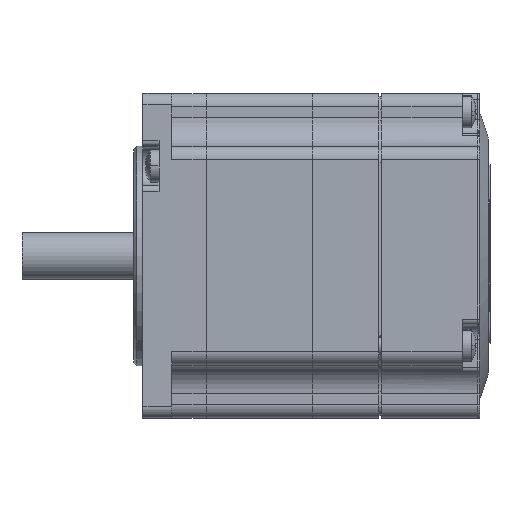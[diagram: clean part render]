
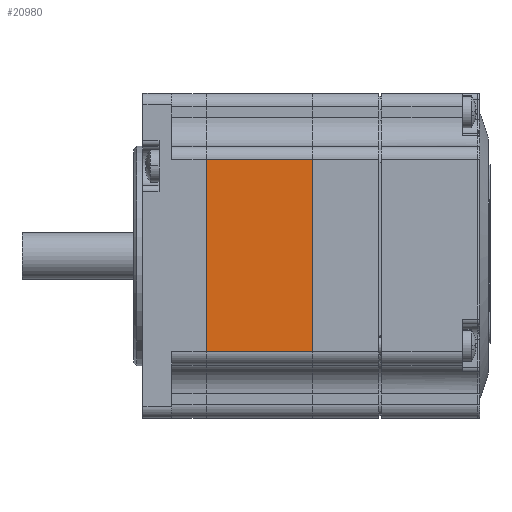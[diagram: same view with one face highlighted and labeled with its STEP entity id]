
A CAD part, top view. The second image highlights one B-rep face of the part: STEP entity #20980.
In plain terms, the highlighted planar face has unit normal (0, 0, 1).
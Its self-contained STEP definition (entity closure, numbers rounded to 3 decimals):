
#1733 = ORIENTED_EDGE ( 'NONE', *, *, #76258, .F. ) ;
#1758 = DIRECTION ( 'NONE',  ( 0., -1., 0. ) ) ;
#6727 = VECTOR ( 'NONE', #49138, 1000. ) ;
#6785 = VERTEX_POINT ( 'NONE', #69353 ) ;
#7866 = PLANE ( 'NONE',  #68882 ) ;
#13286 = LINE ( 'NONE', #31447, #6727 ) ;
#17058 = CARTESIAN_POINT ( 'NONE',  ( 0., -11.5, 56.4 ) ) ;
#17263 = VECTOR ( 'NONE', #1758, 1000. ) ;
#19697 = EDGE_LOOP ( 'NONE', ( #1733, #52389, #71979, #54591 ) ) ;
#20980 = ADVANCED_FACE ( 'NONE', ( #106685 ), #7866, .F. ) ;
#21999 = VECTOR ( 'NONE', #70257, 1000. ) ;
#22355 = LINE ( 'NONE', #62553, #109464 ) ;
#27876 = EDGE_CURVE ( 'NONE', #105415, #35238, #22355, .T. ) ;
#31447 = CARTESIAN_POINT ( 'NONE',  ( -56.5, -11.5, 56.4 ) ) ;
#32839 = DIRECTION ( 'NONE',  ( 1., 0., 0. ) ) ;
#35238 = VERTEX_POINT ( 'NONE', #91560 ) ;
#46153 = LINE ( 'NONE', #77623, #17263 ) ;
#49138 = DIRECTION ( 'NONE',  ( -1., 0., 0. ) ) ;
#52389 = ORIENTED_EDGE ( 'NONE', *, *, #60389, .F. ) ;
#54591 = ORIENTED_EDGE ( 'NONE', *, *, #27876, .T. ) ;
#60389 = EDGE_CURVE ( 'NONE', #6785, #69914, #46153, .T. ) ;
#61759 = CARTESIAN_POINT ( 'NONE',  ( -56.5, -44.9, 56.4 ) ) ;
#62553 = CARTESIAN_POINT ( 'NONE',  ( 0., -54.4, 56.4 ) ) ;
#63295 = EDGE_CURVE ( 'NONE', #6785, #105415, #13286, .T. ) ;
#65655 = DIRECTION ( 'NONE',  ( 0., 0., -1. ) ) ;
#68882 = AXIS2_PLACEMENT_3D ( 'NONE', #84117, #65655, #32839 ) ;
#69353 = CARTESIAN_POINT ( 'NONE',  ( 18.5, -11.5, 56.4 ) ) ;
#69914 = VERTEX_POINT ( 'NONE', #82098 ) ;
#70257 = DIRECTION ( 'NONE',  ( -1., 0., 0. ) ) ;
#70842 = LINE ( 'NONE', #61759, #21999 ) ;
#71979 = ORIENTED_EDGE ( 'NONE', *, *, #63295, .T. ) ;
#76258 = EDGE_CURVE ( 'NONE', #69914, #35238, #70842, .T. ) ;
#77623 = CARTESIAN_POINT ( 'NONE',  ( 18.5, -54.4, 56.4 ) ) ;
#82098 = CARTESIAN_POINT ( 'NONE',  ( 18.5, -44.9, 56.4 ) ) ;
#84117 = CARTESIAN_POINT ( 'NONE',  ( 18.5, -54.4, 56.4 ) ) ;
#88380 = DIRECTION ( 'NONE',  ( 0., -1., 0. ) ) ;
#91560 = CARTESIAN_POINT ( 'NONE',  ( 0., -44.9, 56.4 ) ) ;
#105415 = VERTEX_POINT ( 'NONE', #17058 ) ;
#106685 = FACE_OUTER_BOUND ( 'NONE', #19697, .T. ) ;
#109464 = VECTOR ( 'NONE', #88380, 1000. ) ;
